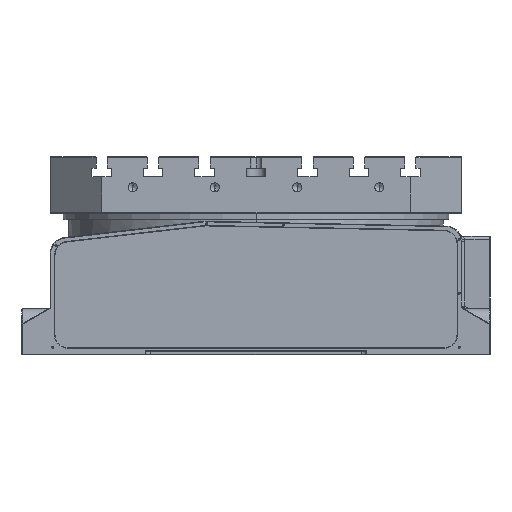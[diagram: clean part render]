
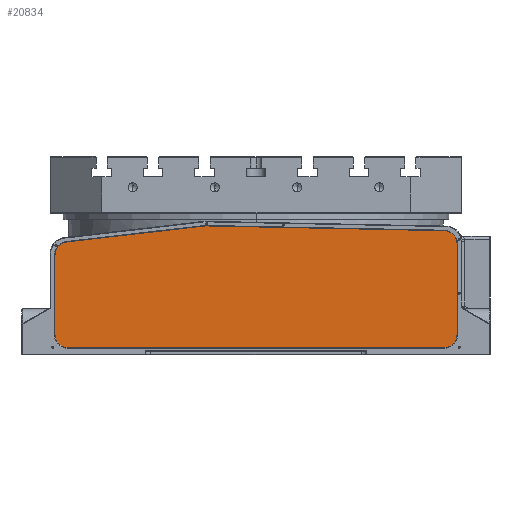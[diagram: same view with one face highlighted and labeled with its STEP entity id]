
A CAD part, left-side view. The second image highlights one B-rep face of the part: STEP entity #20834.
In plain terms, the highlighted planar face has unit normal (-1, 0, 0).
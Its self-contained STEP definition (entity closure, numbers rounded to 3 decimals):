
#7984 = AXIS2_PLACEMENT_3D ( 'NONE', #30702, #30715, #30716 ) ;
#9049 = VERTEX_POINT ( 'NONE', #28916 ) ;
#9064 = VERTEX_POINT ( 'NONE', #28931 ) ;
#11598 = EDGE_CURVE ( 'NONE', #9064, #9049, #24762, .T. ) ;
#12490 = EDGE_CURVE ( 'NONE', #15560, #15558, #34018, .T. ) ;
#12494 = EDGE_CURVE ( 'NONE', #15562, #15560, #36505, .T. ) ;
#12497 = EDGE_CURVE ( 'NONE', #15564, #15562, #34020, .T. ) ;
#12500 = EDGE_CURVE ( 'NONE', #9049, #15564, #36523, .T. ) ;
#12502 = EDGE_CURVE ( 'NONE', #15566, #9064, #34022, .T. ) ;
#12505 = EDGE_CURVE ( 'NONE', #15568, #15566, #36538, .T. ) ;
#12508 = EDGE_CURVE ( 'NONE', #15570, #15568, #34024, .T. ) ;
#12511 = EDGE_CURVE ( 'NONE', #15572, #15570, #36556, .T. ) ;
#12514 = EDGE_CURVE ( 'NONE', #15574, #15572, #34026, .T. ) ;
#12517 = EDGE_CURVE ( 'NONE', #15558, #15574, #36574, .T. ) ;
#14108 = EDGE_LOOP ( 'NONE', ( #17417, #17418, #17419, #17415, #17420, #17421, #17422, #17423, #17424, #17425, #17426 ) ) ;
#15558 = VERTEX_POINT ( 'NONE', #39113 ) ;
#15560 = VERTEX_POINT ( 'NONE', #39115 ) ;
#15562 = VERTEX_POINT ( 'NONE', #39117 ) ;
#15564 = VERTEX_POINT ( 'NONE', #39119 ) ;
#15566 = VERTEX_POINT ( 'NONE', #39121 ) ;
#15568 = VERTEX_POINT ( 'NONE', #39123 ) ;
#15570 = VERTEX_POINT ( 'NONE', #39125 ) ;
#15572 = VERTEX_POINT ( 'NONE', #39127 ) ;
#15574 = VERTEX_POINT ( 'NONE', #39129 ) ;
#17415 = ORIENTED_EDGE ( 'NONE', *, *, #12511, .T. ) ;
#17417 = ORIENTED_EDGE ( 'NONE', *, *, #12490, .T. ) ;
#17418 = ORIENTED_EDGE ( 'NONE', *, *, #12517, .T. ) ;
#17419 = ORIENTED_EDGE ( 'NONE', *, *, #12514, .T. ) ;
#17420 = ORIENTED_EDGE ( 'NONE', *, *, #12508, .T. ) ;
#17421 = ORIENTED_EDGE ( 'NONE', *, *, #12505, .T. ) ;
#17422 = ORIENTED_EDGE ( 'NONE', *, *, #12502, .T. ) ;
#17423 = ORIENTED_EDGE ( 'NONE', *, *, #11598, .T. ) ;
#17424 = ORIENTED_EDGE ( 'NONE', *, *, #12500, .T. ) ;
#17425 = ORIENTED_EDGE ( 'NONE', *, *, #12497, .T. ) ;
#17426 = ORIENTED_EDGE ( 'NONE', *, *, #12494, .T. ) ;
#20834 = ADVANCED_FACE ( 'NONE', ( #52477 ), #54031, .T. ) ;
#24762 = CIRCLE ( 'NONE', #7984, 46. ) ;
#28916 = CARTESIAN_POINT ( 'NONE',  ( -395., 102.681, 110.626 ) ) ;
#28931 = CARTESIAN_POINT ( 'NONE',  ( -395., 97.351, 110.936 ) ) ;
#30702 = CARTESIAN_POINT ( 'NONE',  ( -395., 97.351, 64.936 ) ) ;
#30715 = DIRECTION ( 'NONE',  ( -1., 0., 0. ) ) ;
#30716 = DIRECTION ( 'NONE',  ( 0., 0., 1. ) ) ;
#33850 = AXIS2_PLACEMENT_3D ( 'NONE', #36465, #36493, #36494 ) ;
#33868 = VECTOR ( 'NONE', #36507, 1000. ) ;
#33869 = AXIS2_PLACEMENT_3D ( 'NONE', #36504, #36514, #36515 ) ;
#33871 = AXIS2_PLACEMENT_3D ( 'NONE', #36522, #36529, #36530 ) ;
#33875 = VECTOR ( 'NONE', #36525, 1000. ) ;
#33879 = VECTOR ( 'NONE', #36540, 1000. ) ;
#33880 = AXIS2_PLACEMENT_3D ( 'NONE', #36537, #36547, #36548 ) ;
#33885 = VECTOR ( 'NONE', #36558, 1000. ) ;
#33886 = AXIS2_PLACEMENT_3D ( 'NONE', #36555, #36565, #36566 ) ;
#33892 = VECTOR ( 'NONE', #36576, 1000. ) ;
#34018 = CIRCLE ( 'NONE', #33850, 26. ) ;
#34020 = CIRCLE ( 'NONE', #33869, 26. ) ;
#34022 = CIRCLE ( 'NONE', #33871, 46. ) ;
#34024 = CIRCLE ( 'NONE', #33880, 26. ) ;
#34026 = CIRCLE ( 'NONE', #33886, 26. ) ;
#36465 = CARTESIAN_POINT ( 'NONE',  ( -395., 365., -100. ) ) ;
#36493 = DIRECTION ( 'NONE',  ( -1., 0., 0. ) ) ;
#36494 = DIRECTION ( 'NONE',  ( 0., 0., 1. ) ) ;
#36504 = CARTESIAN_POINT ( 'NONE',  ( -395., 365., 53.846 ) ) ;
#36505 = LINE ( 'NONE', #36506, #33868 ) ;
#36506 = CARTESIAN_POINT ( 'NONE',  ( -395., 391., 53.846 ) ) ;
#36507 = DIRECTION ( 'NONE',  ( 0., 0., -1. ) ) ;
#36514 = DIRECTION ( 'NONE',  ( -1., 0., 0. ) ) ;
#36515 = DIRECTION ( 'NONE',  ( 0., 0., 1. ) ) ;
#36522 = CARTESIAN_POINT ( 'NONE',  ( -395., 97.351, 64.936 ) ) ;
#36523 = LINE ( 'NONE', #36524, #33875 ) ;
#36524 = CARTESIAN_POINT ( 'NONE',  ( -395., 102.681, 110.626 ) ) ;
#36525 = DIRECTION ( 'NONE',  ( 0., 0.993, -0.116 ) ) ;
#36529 = DIRECTION ( 'NONE',  ( -1., 0., 0. ) ) ;
#36530 = DIRECTION ( 'NONE',  ( 0., 0., 1. ) ) ;
#36537 = CARTESIAN_POINT ( 'NONE',  ( -395., -365., 75.693 ) ) ;
#36538 = LINE ( 'NONE', #36539, #33879 ) ;
#36539 = CARTESIAN_POINT ( 'NONE',  ( -395., -365.52, 101.688 ) ) ;
#36540 = DIRECTION ( 'NONE',  ( 0., 1., 0.02 ) ) ;
#36547 = DIRECTION ( 'NONE',  ( -1., 0., 0. ) ) ;
#36548 = DIRECTION ( 'NONE',  ( 0., 0., 1. ) ) ;
#36555 = CARTESIAN_POINT ( 'NONE',  ( -395., -365., -100. ) ) ;
#36556 = LINE ( 'NONE', #36557, #33885 ) ;
#36557 = CARTESIAN_POINT ( 'NONE',  ( -395., -391., -100. ) ) ;
#36558 = DIRECTION ( 'NONE',  ( 0., 0., 1. ) ) ;
#36565 = DIRECTION ( 'NONE',  ( -1., 0., 0. ) ) ;
#36566 = DIRECTION ( 'NONE',  ( 0., 0., 1. ) ) ;
#36574 = LINE ( 'NONE', #36575, #33892 ) ;
#36575 = CARTESIAN_POINT ( 'NONE',  ( -395., 365., -126. ) ) ;
#36576 = DIRECTION ( 'NONE',  ( 0., -1., 0. ) ) ;
#39113 = CARTESIAN_POINT ( 'NONE',  ( -395., 365., -126. ) ) ;
#39115 = CARTESIAN_POINT ( 'NONE',  ( -395., 391., -100. ) ) ;
#39117 = CARTESIAN_POINT ( 'NONE',  ( -395., 391., 53.846 ) ) ;
#39119 = CARTESIAN_POINT ( 'NONE',  ( -395., 368.013, 79.671 ) ) ;
#39121 = CARTESIAN_POINT ( 'NONE',  ( -395., 96.431, 110.927 ) ) ;
#39123 = CARTESIAN_POINT ( 'NONE',  ( -395., -365.52, 101.688 ) ) ;
#39125 = CARTESIAN_POINT ( 'NONE',  ( -395., -391., 75.693 ) ) ;
#39127 = CARTESIAN_POINT ( 'NONE',  ( -395., -391., -100. ) ) ;
#39129 = CARTESIAN_POINT ( 'NONE',  ( -395., -365., -126. ) ) ;
#52477 = FACE_OUTER_BOUND ( 'NONE', #14108, .T. ) ;
#52483 = AXIS2_PLACEMENT_3D ( 'NONE', #54032, #54033, #54034 ) ;
#54031 = PLANE ( 'NONE',  #52483 ) ;
#54032 = CARTESIAN_POINT ( 'NONE',  ( -395., 365., -100. ) ) ;
#54033 = DIRECTION ( 'NONE',  ( -1., 0., 0. ) ) ;
#54034 = DIRECTION ( 'NONE',  ( 0., 0., 1. ) ) ;
